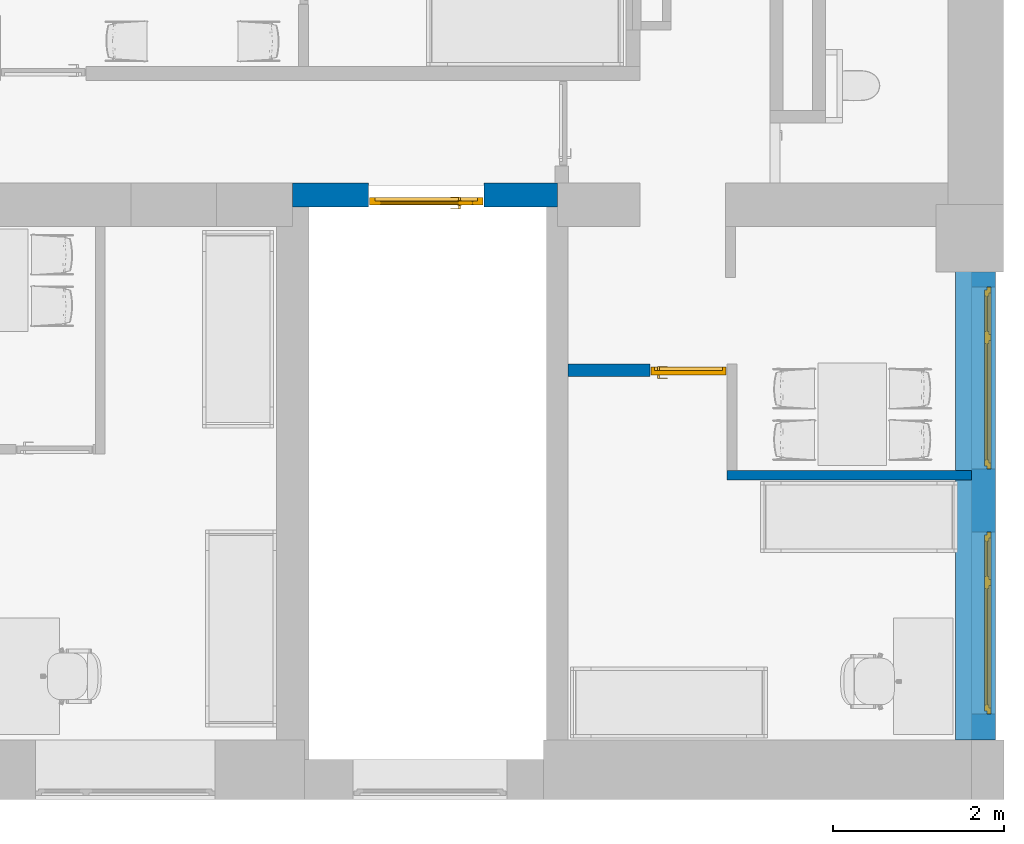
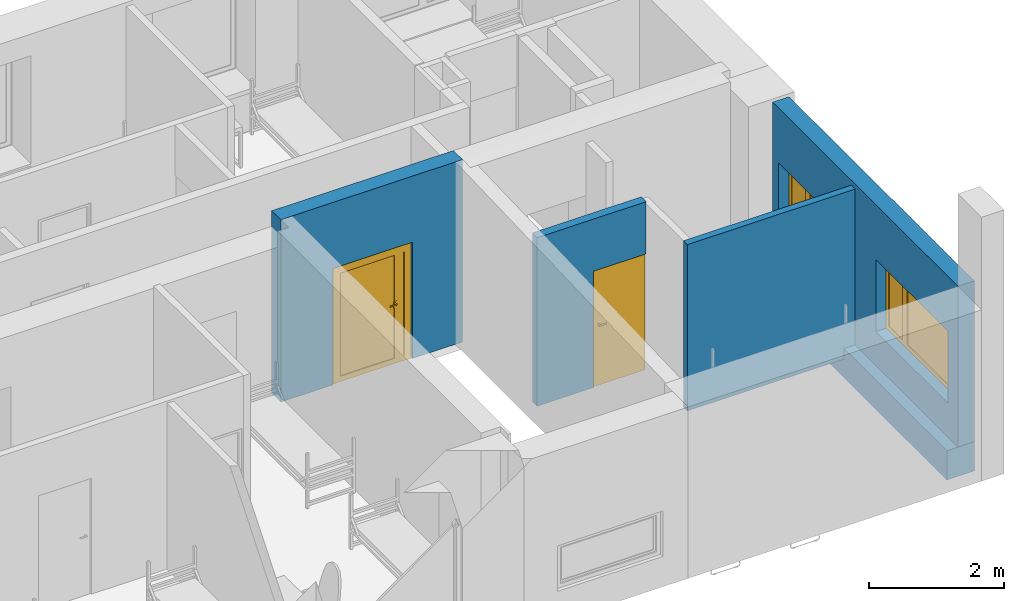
# One storey, part 12 of 46: 5 walls, 2 doors, 2 windows, 4 openings.
"""IFC2X3 building model written with IfcOpenShell, lengths in millimetres."""

import ifcopenshell
import ifcopenshell.guid

model = None  # the IFC model being written
_history = None  # IfcOwnerHistory: only IFC2X3 demands one
_inside = {}  # id of a spatial element -> (the spatial element, [elements in it])
_under = {}  # id of a project, library or spatial element -> (it, [spatial elements below it])
_declared = {}  # id of a project -> (the project, [libraries it declares])
_typed = {}  # id of a type object -> (the type object, [elements of that type])
_made_of = {}  # id of a material, layer set ... -> (it, [elements and type objects made of it])


def new_model(schema):
    """Start an empty IFC model of exactly this schema.

    Asked for "IFC4X3", IfcOpenShell would pick the latest addendum, in which some entities
    have other attributes; the version numbers below select the first issue.
    IFC2X3 requires an IfcOwnerHistory on every rooted entity: one is made here for all.
    """
    global model, _history
    if schema == "IFC4X3":
        model = ifcopenshell.file(schema_version=(4, 3, 0, 0))
    else:
        model = ifcopenshell.file(schema=schema)
    _inside.clear()
    _under.clear()
    _declared.clear()
    _typed.clear()
    _made_of.clear()
    _history = None
    if model.schema == "IFC2X3":
        org = make("IfcOrganization", Name="unknown")
        user = make(
            "IfcPersonAndOrganization",
            ThePerson=make("IfcPerson", FamilyName="unknown"),
            TheOrganization=org,
        )
        app = make(
            "IfcApplication",
            ApplicationDeveloper=org,
            Version="unknown",
            ApplicationFullName="unknown",
            ApplicationIdentifier="unknown",
        )
        _history = make(
            "IfcOwnerHistory",
            OwningUser=user,
            OwningApplication=app,
            ChangeAction="ADDED",
            CreationDate=0,
        )
    return model


def make(cls, **values):
    """One entity of the class cls with the attributes given. An attribute that is None is left unset."""
    return model.create_entity(
        cls, **{name: value for name, value in values.items() if value is not None}
    )


def entity(cls, *values):
    """Any entity or typed value of the class cls, its attributes in the order of the schema. None: left unset."""
    e = model.create_entity(cls)
    for i, value in enumerate(values):
        if value is not None:
            e[i] = value
    return e


def rooted(cls, **values):
    """An entity with a GlobalId (a new one), such as an element, a storey or a relation."""
    return make(cls, GlobalId=ifcopenshell.guid.new(), OwnerHistory=_history, **values)


def si_unit(unit_type, name, prefix=None):
    """IfcSIUnit, for example si_unit("LENGTHUNIT", "METRE", prefix="MILLI")."""
    return make("IfcSIUnit", UnitType=unit_type, Prefix=prefix, Name=name)


def converted_unit(unit_type, name, factor, base, dimensions=None, offset=None):
    """IfcConversionBasedUnit, such as the inch: factor (a typed value) times the base unit."""
    return make(
        "IfcConversionBasedUnit"
        if offset is None
        else "IfcConversionBasedUnitWithOffset",
        ConversionOffset=offset,
        Dimensions=None
        if dimensions is None
        else entity("IfcDimensionalExponents", *dimensions),
        UnitType=unit_type,
        Name=name,
        ConversionFactor=make(
            "IfcMeasureWithUnit", ValueComponent=factor, UnitComponent=base
        ),
    )


def derived_unit(unit_type, elements):
    """IfcDerivedUnit: a product of units, each with its exponent."""
    return make(
        "IfcDerivedUnit",
        Elements=[
            make("IfcDerivedUnitElement", Unit=unit, Exponent=power)
            for unit, power in elements
        ],
        UnitType=unit_type,
    )


def assignment(units):
    """IfcUnitAssignment: the units of a project."""
    return None if units is None else make("IfcUnitAssignment", Units=units)


def point(xyz):
    """IfcCartesianPoint."""
    return None if xyz is None else make("IfcCartesianPoint", Coordinates=xyz)


def direction(xyz):
    """IfcDirection."""
    return None if xyz is None else make("IfcDirection", DirectionRatios=xyz)


def frame(location, z_axis=None, x_axis=None):
    """IfcAxis2Placement3D, a coordinate frame: its origin and axes. An axis left out is left unset."""
    return make(
        "IfcAxis2Placement3D",
        Location=point(location),
        Axis=direction(z_axis),
        RefDirection=direction(x_axis),
    )


def frame_2d(location, x_axis=None):
    """IfcAxis2Placement2D, a coordinate frame in the plane: its origin and x axis."""
    return make(
        "IfcAxis2Placement2D", Location=point(location), RefDirection=direction(x_axis)
    )


def origin():
    """The frame at (0, 0, 0) with its axes left unset."""
    return frame((0.0, 0.0, 0.0))


def place(relative_to, where):
    """IfcLocalPlacement: puts the frame where relative to a parent placement (None: the world)."""
    return make(
        "IfcLocalPlacement", PlacementRelTo=relative_to, RelativePlacement=where
    )


def context(
    kind, dimensions, precision=None, world=None, true_north=None, identifier=None
):
    """IfcGeometricRepresentationContext, for example the 3D "Model" context."""
    return make(
        "IfcGeometricRepresentationContext",
        ContextIdentifier=identifier,
        ContextType=kind,
        CoordinateSpaceDimension=dimensions,
        Precision=precision,
        WorldCoordinateSystem=world,
        TrueNorth=true_north,
    )


def subcontext(parent, identifier, kind, view, scale=None):
    """IfcGeometricRepresentationSubContext, for example "Body" below "Model"."""
    return make(
        "IfcGeometricRepresentationSubContext",
        ContextIdentifier=identifier,
        ContextType=kind,
        ParentContext=parent,
        TargetScale=scale,
        TargetView=view,
    )


def project(units=None, contexts=None):
    """IfcProject with its units and contexts."""
    return rooted(
        "IfcProject",
        Name="project",
        RepresentationContexts=contexts,
        UnitsInContext=assignment(units),
    )


def spatial(cls, under=None, at=None, **own):
    """A site, building, storey or space (cls), placed at a placement, below another one or the project."""
    s = rooted(cls, ObjectPlacement=at, **own)
    if under is not None:
        _under.setdefault(under.id(), (under, []))[1].append(s)
    return s


def polyline(points):
    """IfcPolyline through the points."""
    return make("IfcPolyline", Points=[point(p) for p in points])


def profile(cls, at=None, kind="AREA", **sizes):
    """A parametric profile (cls). Its sizes go by their IFC names, for example OverallWidth=200.0."""
    return make(cls, ProfileType=kind, Position=at, **sizes)


def rectangle(**sizes):
    """IfcRectangleProfileDef."""
    return profile("IfcRectangleProfileDef", **sizes)


def extrude(swept, where, along, depth):
    """IfcExtrudedAreaSolid: the profile swept, set in the frame where, extruded along a direction by depth."""
    return make(
        "IfcExtrudedAreaSolid",
        SweptArea=swept,
        Position=where,
        ExtrudedDirection=direction(along),
        Depth=depth,
    )


def clip(a, b, op="DIFFERENCE"):
    """IfcBooleanClippingResult: the solid a cut by the half space b."""
    return make(
        "IfcBooleanClippingResult", Operator=op, FirstOperand=a, SecondOperand=b
    )


def bounded_halfspace(plane, agree, where, boundary):
    """IfcPolygonalBoundedHalfSpace: a half space limited to a polygon's prism."""
    return make(
        "IfcPolygonalBoundedHalfSpace",
        BaseSurface=make("IfcPlane", Position=plane),
        AgreementFlag=agree,
        Position=where,
        PolygonalBoundary=boundary,
    )


def faces_of(points, faces, orient=None, outer=None):
    """IfcFace entities. A face is a list of loops; a loop is a list of indices into points, from 0.

    orient and outer hold one flag for each loop. By default every Orientation is true, the
    first loop of a face is its IfcFaceOuterBound and the others are IfcFaceBound.
    """
    made = []
    for i, loops in enumerate(faces):
        bounds = []
        for j, loop in enumerate(loops):
            is_outer = j == 0 if outer is None else outer[i][j]
            bounds.append(
                make(
                    "IfcFaceOuterBound" if is_outer else "IfcFaceBound",
                    Bound=make("IfcPolyLoop", Polygon=[points[k] for k in loop]),
                    Orientation=True if orient is None else orient[i][j],
                )
            )
        made.append(make("IfcFace", Bounds=bounds))
    return made


def faceted_brep(points, faces, orient=None, outer=None, voids=None):
    """IfcFacetedBrep: a solid bounded by flat faces; with voids (closed shells), ...WithVoids."""
    shared = [point(p) for p in points]
    hull = make("IfcClosedShell", CfsFaces=faces_of(shared, faces, orient, outer))
    if voids is None:
        return make("IfcFacetedBrep", Outer=hull)
    return make(
        "IfcFacetedBrepWithVoids",
        Outer=hull,
        Voids=[
            make(cls, CfsFaces=faces_of(shared, fs, o, b)) for cls, fs, o, b in voids
        ],
    )


def shape(context_of_items, identifier, shape_type, items):
    """IfcShapeRepresentation: the items that make up one representation, for example the "Body"."""
    return make(
        "IfcShapeRepresentation",
        ContextOfItems=context_of_items,
        RepresentationIdentifier=identifier,
        RepresentationType=shape_type,
        Items=items,
    )


def source(mapping_origin, context_of_items, identifier, shape_type, items):
    """IfcRepresentationMap: a shape defined once, which mapped items show again and again."""
    return make(
        "IfcRepresentationMap",
        MappingOrigin=mapping_origin,
        MappedRepresentation=shape(context_of_items, identifier, shape_type, items),
    )


def transform(
    local_origin,
    x_axis=None,
    y_axis=None,
    z_axis=None,
    scale=None,
    scale2=None,
    scale3=None,
    uniform=True,
):
    """IfcCartesianTransformationOperator3D, or its non-uniform kind. x_axis, y_axis, z_axis: its Axis1, 2, 3."""
    if uniform:
        return make(
            "IfcCartesianTransformationOperator3D",
            Axis1=direction(x_axis),
            Axis2=direction(y_axis),
            LocalOrigin=point(local_origin),
            Scale=scale,
            Axis3=direction(z_axis),
        )
    return make(
        "IfcCartesianTransformationOperator3DnonUniform",
        Axis1=direction(x_axis),
        Axis2=direction(y_axis),
        LocalOrigin=point(local_origin),
        Scale=scale,
        Axis3=direction(z_axis),
        Scale2=scale2,
        Scale3=scale3,
    )


def mapped(mapping_source, mapping_target):
    """IfcMappedItem: shows the shape of a source again, moved by a transform."""
    return make(
        "IfcMappedItem", MappingSource=mapping_source, MappingTarget=mapping_target
    )


def material(Name=None, Category=None):
    """IfcMaterial."""
    return make("IfcMaterial", Name=Name, Category=Category)


def material_list(materials):
    """IfcMaterialList."""
    return make("IfcMaterialList", Materials=materials)


def layer(
    of_material, thickness, ventilated=None, Name=None, Category=None, Priority=None
):
    """IfcMaterialLayer: one layer of a wall or slab, of a material (None: an air gap)."""
    return make(
        "IfcMaterialLayer",
        Material=of_material,
        LayerThickness=thickness,
        IsVentilated=ventilated,
        Name=Name,
        Category=Category,
        Priority=Priority,
    )


def layer_set(layers, Name=None):
    """IfcMaterialLayerSet."""
    return make("IfcMaterialLayerSet", MaterialLayers=layers, LayerSetName=Name)


def layer_usage(for_layer_set, set_direction, sense, offset, extent=None):
    """IfcMaterialLayerSetUsage: how a layer set lies in its element."""
    return make(
        "IfcMaterialLayerSetUsage",
        ForLayerSet=for_layer_set,
        LayerSetDirection=set_direction,
        DirectionSense=sense,
        OffsetFromReferenceLine=offset,
        ReferenceExtent=extent,
    )


def made_of(thing, what):
    """Note that an element or type object is made of a material, layer set ...; save() writes the relation."""
    if what is not None:
        _made_of.setdefault(what.id(), (what, []))[1].append(thing)
    return thing


def type_object(cls, material=None, **own):
    """A type object (cls), such as IfcWallType, which elements share."""
    return made_of(rooted(cls, **own), material)


def type_shapes(of_type, sources):
    """Give a type object the sources (RepresentationMaps) that its elements show as mapped items."""
    of_type.RepresentationMaps = sources


def element(
    cls,
    number,
    at=None,
    inside=None,
    cuts=None,
    type_object=None,
    material=None,
    context=None,
    identifier="Body",
    shape_type=None,
    held_by="IfcProductDefinitionShape",
    body=None,
    shapes=None,
    **own,
):
    """One element of the class cls, such as IfcWall. Its Tag is "e" and its number.

    at: its placement. inside: the storey or other place that contains it. cuts: it is an
    opening in that element (IfcRelVoidsElement). A single representation is given by context,
    identifier, shape_type and body (its items); several are given by shapes. held_by: the class
    of the entity that holds the representations. save() writes the other relations.
    """
    e = rooted(cls, Tag="e%d" % number, ObjectPlacement=at, **own)
    if body is not None:
        shapes = [shape(context, identifier, shape_type, body)]
    if shapes is not None:
        e.Representation = make(held_by, Representations=shapes)
    if inside is not None:
        _inside.setdefault(inside.id(), (inside, []))[1].append(e)
    if cuts is not None:
        rooted(
            "IfcRelVoidsElement", RelatingBuildingElement=cuts, RelatedOpeningElement=e
        )
    if type_object is not None:
        _typed.setdefault(type_object.id(), (type_object, []))[1].append(e)
    return made_of(e, material)


def fill(opening, filler):
    """IfcRelFillsElement: the door or window that sits in an opening."""
    return rooted(
        "IfcRelFillsElement",
        RelatingOpeningElement=opening,
        RelatedBuildingElement=filler,
    )


def aggregate(whole, parts):
    """IfcRelAggregates: a whole, such as a stair, and the parts it consists of."""
    return rooted("IfcRelAggregates", RelatingObject=whole, RelatedObjects=parts)


def save(model, path):
    """Write the relations noted so far, then the file.

    IfcRelAggregates (storeys below a building ...), IfcRelContainedInSpatialStructure (elements
    in a storey), IfcRelDefinesByType, IfcRelAssociatesMaterial and IfcRelDeclares: one each for
    every whole, place, type object, material and project.
    """
    for whole, parts in _under.values():
        aggregate(whole, parts)
    for where, things in _inside.values():
        rooted(
            "IfcRelContainedInSpatialStructure",
            RelatedElements=things,
            RelatingStructure=where,
        )
    for kind, things in _typed.values():
        rooted("IfcRelDefinesByType", RelatedObjects=things, RelatingType=kind)
    for what, things in _made_of.values():
        rooted("IfcRelAssociatesMaterial", RelatedObjects=things, RelatingMaterial=what)
    for by, libraries in _declared.values():
        rooted("IfcRelDeclares", RelatingContext=by, RelatedDefinitions=libraries)
    model.write(path)


model = new_model("IFC2X3")

# Units and contexts
model_context = context("Model", 3, precision=0.01, world=origin(), true_north=direction((6.12303176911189e-17, 1.0)))
body_context = subcontext(model_context, "Body", "Model", "MODEL_VIEW")
ifc_project = project(units=[si_unit("LENGTHUNIT", "METRE", prefix="MILLI"), si_unit("AREAUNIT", "SQUARE_METRE"), si_unit("VOLUMEUNIT", "CUBIC_METRE"), converted_unit("PLANEANGLEUNIT", "DEGREE", entity("IfcRatioMeasure", 0.0174532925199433), si_unit("PLANEANGLEUNIT", "RADIAN"), dimensions=[0, 0, 0, 0, 0, 0, 0]), si_unit("MASSUNIT", "GRAM", prefix="KILO"), derived_unit("MASSDENSITYUNIT", [(si_unit("MASSUNIT", "GRAM", prefix="KILO"), 1), (si_unit("LENGTHUNIT", "METRE"), -3)]), si_unit("TIMEUNIT", "SECOND"), si_unit("FREQUENCYUNIT", "HERTZ"), si_unit("THERMODYNAMICTEMPERATUREUNIT", "DEGREE_CELSIUS"), derived_unit("THERMALTRANSMITTANCEUNIT", [(si_unit("MASSUNIT", "GRAM", prefix="KILO"), 1), (si_unit("THERMODYNAMICTEMPERATUREUNIT", "KELVIN"), -1), (si_unit("TIMEUNIT", "SECOND"), -3)]), derived_unit("VOLUMETRICFLOWRATEUNIT", [(si_unit("LENGTHUNIT", "METRE"), 3), (si_unit("TIMEUNIT", "SECOND"), -1)]), si_unit("ELECTRICCURRENTUNIT", "AMPERE"), si_unit("ELECTRICVOLTAGEUNIT", "VOLT"), si_unit("POWERUNIT", "WATT"), si_unit("FORCEUNIT", "NEWTON", prefix="KILO"), si_unit("ILLUMINANCEUNIT", "LUX"), si_unit("LUMINOUSFLUXUNIT", "LUMEN"), si_unit("LUMINOUSINTENSITYUNIT", "CANDELA"), derived_unit("USERDEFINED", [(si_unit("MASSUNIT", "GRAM", prefix="KILO"), -1), (si_unit("LENGTHUNIT", "METRE"), -2), (si_unit("TIMEUNIT", "SECOND"), 3), (si_unit("LUMINOUSFLUXUNIT", "LUMEN"), 1)]), derived_unit("LINEARVELOCITYUNIT", [(si_unit("LENGTHUNIT", "METRE"), 1), (si_unit("TIMEUNIT", "SECOND"), -1)]), si_unit("PRESSUREUNIT", "PASCAL"), derived_unit("USERDEFINED", [(si_unit("LENGTHUNIT", "METRE"), -2), (si_unit("MASSUNIT", "GRAM", prefix="KILO"), 1), (si_unit("TIMEUNIT", "SECOND"), -2)]), derived_unit("LINEARFORCEUNIT", [(si_unit("MASSUNIT", "GRAM", prefix="KILO"), 1), (si_unit("LENGTHUNIT", "METRE"), 1), (si_unit("TIMEUNIT", "SECOND"), -2), (si_unit("LENGTHUNIT", "METRE"), -1)]), derived_unit("PLANARFORCEUNIT", [(si_unit("MASSUNIT", "GRAM", prefix="KILO"), 1), (si_unit("LENGTHUNIT", "METRE"), 1), (si_unit("TIMEUNIT", "SECOND"), -2), (si_unit("LENGTHUNIT", "METRE"), -2)])], contexts=[model_context])

# Site, building, storey
site_placement = place(None, origin())
site = spatial("IfcSite", under=ifc_project, at=site_placement, Name="Default", CompositionType="ELEMENT")
building_placement = place(site_placement, origin())
building = spatial("IfcBuilding", under=site, at=building_placement, Name="SMA ARH", CompositionType="ELEMENT")
storey_placement = place(building_placement, frame((0.0, 0.0, 9910.0)))
storey = spatial("IfcBuildingStorey", under=building, at=storey_placement, Name="4 Korrus", CompositionType="ELEMENT", Elevation=9909.9999999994)

# Wall, opening, door
ifc_material_1 = material(Name="_ol.olev sein")
ifc_layer_1 = layer(ifc_material_1, 280.0)
ifc_layer_set_1 = layer_set([ifc_layer_1], Name="Basic Wall:Generic - 280mm")
ifc_layer_usage_1 = layer_usage(ifc_layer_set_1, "AXIS2", "POSITIVE", -140.0)
wall_type_1 = type_object("IfcWallType", Name="Basic Wall:Generic - 280mm", PredefinedType="STANDARD", material=ifc_layer_set_1)
wall_1_placement = place(storey_placement, frame((30450.0, 6380.0, 0.0)))
wall_1 = element("IfcWallStandardCase", 1, at=wall_1_placement, inside=storey, type_object=wall_type_1, material=ifc_layer_usage_1, Name="Basic Wall:Generic - 280mm", ObjectType="Basic Wall:Generic - 280mm", context=body_context, shape_type="Clipping", body=[
    clip(extrude(rectangle(XDim=280.0, YDim=3100.00000000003, at=frame_2d((1740.00000000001, -1.10844666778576e-12), x_axis=(0.0, 1.0))), origin(), (0.0, 0.0, 1.0), 3291.82632873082), bounded_halfspace(frame((0.0, -140.0, 3291.82632873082), z_axis=(0.0, 0.0348994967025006, 0.999390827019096), x_axis=(-1.0, 0.0, 0.0)), False, frame((0.0, -140.0, 3291.82632873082), z_axis=(0.0, 0.0348994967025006, 0.999390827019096), x_axis=(-1.0, 0.0, 0.0)), polyline([(0.0, 0.0), (-3165.0, 0.0), (-3290.0, 0.0), (-3290.0, -280.17067240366), (0.0, -280.17067240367), (0.0, -240.146290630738), (0.0, 0.0)]))),
])
opening_1_placement = place(wall_1_placement, frame((2430.0, 140.0, 0.0)))
opening_1 = element("IfcOpeningElement", 2, at=opening_1_placement, cuts=wall_1, Name="SMA_D02, 2-poolne:SU-AL-03 - 1350x2100:1", ObjectType="Opening", context=body_context, shape_type="SweptSolid", body=[
    extrude(rectangle(XDim=2099.99999999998, YDim=1350.0, at=frame_2d((1049.99999999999, 675.0), x_axis=(1.0, 0.0))), frame((0.0, 0.0, 0.0), z_axis=(0.0, -1.0, 0.0), x_axis=(0.0, 0.0, 1.0)), (0.0, 0.0, 1.0), 280.0),
])
ifc_material_2 = material(Name="EST. Metall. Plekk. Värvitud. RAL7023 (Concrete grey)")
ifc_material_3 = material(Name="EST. Klaas. 3x. Default")
ifc_material_list_1 = material_list([ifc_material_2, ifc_material_3])
ifc_material_4 = material(Name="<Unnamed>")
ifc_material_list_2 = material_list([ifc_material_4, ifc_material_4, ifc_material_2, ifc_material_3, ifc_material_4, ifc_material_2, ifc_material_2])
door_style_1 = type_object("IfcDoorStyle", Name="SMA_D02, 2-poolne:SU-AL-03 - 1350x2100", ConstructionType="NOTDEFINED", OperationType="SINGLE_SWING_RIGHT", ParameterTakesPrecedence=False, Sizeable=False, material=ifc_material_list_2)
shared_shape_1 = source(origin(), body_context, "Body", "Brep", [
    faceted_brep([(297.499999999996, 170.0, 1100.0), (297.499999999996, 208.0, 1100.0), (272.499999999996, 208.0, 1100.0), (272.499999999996, 165.0, 1100.0), (392.499999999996, 165.0, 1100.0), (392.499999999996, 170.0, 1100.0), (297.499999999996, 170.0, 1075.0), (392.499999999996, 170.0, 1075.0), (392.499999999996, 165.0, 1075.0), (272.499999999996, 165.0, 1075.0), (272.499999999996, 208.0, 1075.0), (297.499999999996, 208.0, 1075.0)], [[[0, 1, 2, 3, 4, 5]], [[6, 7, 8, 9, 10, 11]], [[1, 0, 6, 11]], [[2, 1, 11, 10]], [[3, 2, 10, 9]], [[4, 3, 9, 8]], [[5, 4, 8, 7]], [[0, 5, 7, 6]]]),
    faceted_brep([(310.0, 208.0, 1125.0), (310.0, 210.0, 1125.0), (260.0, 210.0, 1125.0), (260.0, 208.0, 1125.0), (310.0, 208.0, 1005.0), (260.0, 208.0, 1005.0), (260.0, 210.0, 1005.0), (310.0, 210.0, 1005.0)], [[[0, 1, 2, 3]], [[4, 5, 6, 7]], [[1, 0, 4, 7]], [[2, 1, 7, 6]], [[3, 2, 6, 5]], [[0, 3, 5, 4]]]),
    faceted_brep([(297.499999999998, 300.0, 1100.0), (392.499999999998, 300.0, 1100.0), (392.499999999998, 305.0, 1100.0), (272.499999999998, 305.0, 1100.0), (272.499999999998, 262.0, 1100.0), (297.499999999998, 262.0, 1100.0), (297.499999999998, 300.0, 1075.0), (297.499999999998, 262.0, 1075.0), (272.499999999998, 262.0, 1075.0), (272.499999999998, 305.0, 1075.0), (392.499999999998, 305.0, 1075.0), (392.499999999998, 300.0, 1075.0)], [[[0, 1, 2, 3, 4, 5]], [[6, 7, 8, 9, 10, 11]], [[5, 7, 6, 0]], [[4, 8, 7, 5]], [[3, 9, 8, 4]], [[2, 10, 9, 3]], [[1, 11, 10, 2]], [[0, 6, 11, 1]]]),
    faceted_brep([(310.0, 262.0, 1125.0), (260.0, 262.0, 1125.0), (260.0, 260.0, 1125.0), (310.0, 260.0, 1125.0), (310.0, 262.0, 1005.0), (310.0, 260.0, 1005.0), (260.0, 260.0, 1005.0), (260.0, 262.0, 1005.0)], [[[0, 1, 2, 3]], [[4, 5, 6, 7]], [[3, 5, 4, 0]], [[2, 6, 5, 3]], [[1, 7, 6, 2]], [[0, 4, 7, 1]]]),
    faceted_brep([(1274.5, 170.0, 30.0), (1274.5, 170.0, 0.0), (1274.5, 210.0, 0.0), (1274.5, 210.0, 20.0), (1274.5, 210.0, 30.0), (75.4999999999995, 170.0, 30.0), (75.4999999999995, 210.0, 30.0), (75.4999999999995, 210.0, 20.0), (75.4999999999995, 210.0, 0.0), (75.4999999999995, 170.0, 0.0), (65.4999999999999, 210.0, 0.0), (65.4999999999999, 260.0, 0.0), (1284.5, 260.0, 0.0), (1284.5, 210.0, 0.0), (1284.5, 260.0, 20.0), (1284.5, 210.0, 20.0), (65.4999999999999, 260.0, 20.0), (65.4999999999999, 210.0, 20.0)], [[[0, 1, 2, 3, 4]], [[5, 6, 7, 8, 9]], [[1, 0, 5, 9]], [[2, 1, 9, 8, 10, 11, 12, 13]], [[6, 4, 3, 7]], [[0, 4, 6, 5]], [[14, 15, 13, 12]], [[16, 11, 10, 17]], [[15, 14, 16, 17, 7, 3]], [[13, 15, 3, 2]], [[14, 12, 11, 16]], [[17, 10, 8, 7]]]),
    faceted_brep([(1340.0, 170.0, 0.0), (1274.5, 170.0, 0.0), (1274.5, 210.0, 0.0), (1284.5, 210.0, 0.0), (1284.5, 260.0, 0.0), (1340.0, 260.0, 0.0), (1340.0, 170.0, 2090.0), (10.0, 170.0, 2090.0), (10.0, 170.0, 0.0), (75.4999999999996, 170.0, 0.0), (75.4999999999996, 170.0, 2024.49999999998), (1274.5, 170.0, 2024.49999999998), (1274.5, 210.0, 2024.49999999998), (75.5000000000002, 210.0, 2024.49999999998), (75.5000000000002, 210.0, 0.0), (65.5000000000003, 210.0, 0.0), (65.5000000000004, 210.0, 2034.49999999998), (1284.5, 210.0, 2034.49999999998), (1284.5, 260.0, 2034.49999999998), (65.5, 260.0, 2034.49999999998), (65.5, 260.0, 0.0), (10.0, 260.0, 0.0), (10.0, 260.0, 2090.0), (1340.0, 260.0, 2090.0)], [[[0, 1, 2, 3, 4, 5]], [[1, 0, 6, 7, 8, 9, 10, 11]], [[2, 1, 11, 12]], [[3, 2, 12, 13, 14, 15, 16, 17]], [[4, 3, 17, 18]], [[5, 4, 18, 19, 20, 21, 22, 23]], [[0, 5, 23, 6]], [[8, 7, 22, 21]], [[9, 8, 21, 20, 15, 14]], [[10, 9, 14, 13]], [[16, 15, 20, 19]], [[11, 10, 13, 12]], [[17, 16, 19, 18]], [[7, 6, 23, 22]]]),
    faceted_brep([(140.500000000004, 225.0, 95.0), (140.500000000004, 225.0, 1955.0), (125.0, 225.0, 1955.0), (125.0, 225.0, 95.0), (140.500000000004, 245.0, 95.0), (125.0, 245.0, 95.0), (125.0, 245.0, 1955.0), (140.500000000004, 245.0, 1955.0)], [[[0, 1, 2, 3]], [[4, 5, 6, 7]], [[0, 3, 5, 4]], [[3, 2, 6, 5]], [[2, 1, 7, 6]], [[1, 0, 4, 7]]]),
    faceted_brep([(295.0, 225.0, 95.0), (1209.5, 225.0, 95.0), (1209.5, 225.0, 1955.0), (295.0, 225.0, 1955.0), (295.0, 245.0, 95.0), (295.0, 245.0, 1955.0), (1209.5, 245.0, 1955.0), (1209.5, 245.0, 95.0)], [[[0, 1, 2, 3]], [[4, 5, 6, 7]], [[1, 0, 4, 7]], [[2, 1, 7, 6]], [[3, 2, 6, 5]], [[0, 3, 5, 4]]]),
    faceted_brep([(210.0, 210.0, 2034.49999999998), (65.4999999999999, 210.0, 2034.49999999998), (65.4999999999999, 210.0, 20.0), (210.0, 210.0, 20.0), (140.500000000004, 210.0, 1955.0), (140.500000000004, 210.0, 95.0), (125.0, 210.0, 95.0), (125.0, 210.0, 1955.0), (210.0, 260.0, 2034.49999999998), (210.0, 260.0, 20.0), (65.4999999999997, 260.0, 20.0), (65.4999999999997, 260.0, 2034.49999999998), (140.500000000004, 260.0, 95.0), (140.500000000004, 260.0, 1955.0), (125.0, 260.0, 1955.0), (125.0, 260.0, 95.0)], [[[0, 1, 2, 3], [4, 5, 6, 7]], [[8, 9, 10, 11], [12, 13, 14, 15]], [[1, 0, 8, 11]], [[2, 1, 11, 10]], [[3, 2, 10, 9]], [[0, 3, 9, 8]], [[12, 5, 4, 13]], [[5, 12, 15, 6]], [[6, 15, 14, 7]], [[7, 14, 13, 4]]]),
    faceted_brep([(210.0, 210.0, 2034.49999999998), (210.0, 210.0, 20.0), (1284.5, 210.0, 20.0), (1284.5, 210.0, 2034.49999999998), (295.0, 210.0, 95.0), (295.0, 210.0, 1955.0), (1209.5, 210.0, 1955.0), (1209.5, 210.0, 95.0), (210.0, 260.0, 2034.49999999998), (1284.5, 260.0, 2034.49999999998), (1284.5, 260.0, 20.0), (210.0, 260.0, 20.0), (295.0, 260.0, 1955.0), (295.0, 260.0, 95.0), (1209.5, 260.0, 95.0), (1209.5, 260.0, 1955.0)], [[[0, 1, 2, 3], [4, 5, 6, 7]], [[8, 9, 10, 11], [12, 13, 14, 15]], [[1, 0, 8, 11]], [[2, 1, 11, 10]], [[3, 2, 10, 9]], [[0, 3, 9, 8]], [[12, 5, 4, 13]], [[13, 4, 7, 14]], [[14, 7, 6, 15]], [[5, 12, 15, 6]]]),
])
type_shapes(door_style_1, [shared_shape_1])
door_1_placement = place(opening_1_placement, frame((0.0, 0.0, 0.0), z_axis=(0.0, 0.0, 1.0), x_axis=(-1.0, 0.0, 0.0)))
door_1 = element("IfcDoor", 3, at=door_1_placement, inside=storey, type_object=door_style_1, material=ifc_material_list_1, Name="SMA_D02, 2-poolne:SU-AL-03 - 1350x2100", ObjectType="SMA_D02, 2-poolne:SU-AL-03 - 1350x2100", OverallHeight=2099.99999999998, OverallWidth=1350.0, context=body_context, shape_type="MappedRepresentation", body=[
    mapped(shared_shape_1, transform((0.0, 0.0, 0.0), scale=1.0)),
])
fill(opening_1, door_1)

# Wall, openings, windows
ifc_layer_usage_2 = layer_usage(ifc_layer_set_1, "AXIS2", "NEGATIVE", 140.0)
wall_2_placement = place(storey_placement, frame((38729.9009991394, 5480.0, 190.0), z_axis=(0.0, 0.0, 1.0), x_axis=(0.0, -1.0, 0.0)))
wall_2 = element("IfcWallStandardCase", 4, at=wall_2_placement, inside=storey, type_object=wall_type_1, material=ifc_layer_usage_2, Name="Basic Wall:Generic - 280mm", ObjectType="Basic Wall:Generic - 280mm", context=body_context, shape_type="SweptSolid", body=[
    extrude(rectangle(XDim=5480.00000000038, YDim=279.999999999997, at=frame_2d((2740.00000000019, 0.0), x_axis=(-1.0, 0.0))), origin(), (0.0, 0.0, 1.0), 2900.00000000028),
])
opening_2_placement = place(wall_2_placement, frame((3050.0, -140.0, 610.0)))
opening_2 = element("IfcOpeningElement", 5, at=opening_2_placement, cuts=wall_2, Name="SMA_W2, 2-jaotus:A-00 - 19800x1900:1", ObjectType="Opening", context=body_context, shape_type="SweptSolid", body=[
    extrude(rectangle(XDim=1300.0, YDim=2130.0, at=frame_2d((650.0, 1065.0), x_axis=(1.0, 0.0))), frame((0.0, 0.0, 0.0), z_axis=(0.0, 1.0, 0.0), x_axis=(0.0, 0.0, 1.0)), (0.0, 0.0, 1.0), 280.0),
])
opening_3_placement = place(wall_2_placement, frame((180.0, -140.0, 610.0)))
opening_3 = element("IfcOpeningElement", 6, at=opening_3_placement, cuts=wall_2, Name="SMA_W2, 2-jaotus:A-00 - 19800x1900:1", ObjectType="Opening", context=body_context, shape_type="SweptSolid", body=[
    extrude(rectangle(XDim=1300.0, YDim=2130.0, at=frame_2d((650.0, 1065.0), x_axis=(1.0, 0.0))), frame((0.0, 0.0, 0.0), z_axis=(0.0, 1.0, 0.0), x_axis=(0.0, 0.0, 1.0)), (0.0, 0.0, 1.0), 280.0),
])
ifc_material_5 = material(Name="Glass")
ifc_material_6 = material(Name="Hall")
ifc_material_list_3 = material_list([ifc_material_5, ifc_material_6])
ifc_material_list_4 = material_list([ifc_material_6, ifc_material_5, ifc_material_4, ifc_material_6, ifc_material_4])
window_style = type_object("IfcWindowStyle", Name="SMA_W2, 2-jaotus:A-00 - 19800x1900", ConstructionType="NOTDEFINED", OperationType="NOTDEFINED", ParameterTakesPrecedence=False, Sizeable=False, material=ifc_material_list_4)
shared_shape_2 = source(origin(), body_context, "Body", "Brep", [
    faceted_brep([(2025.0, 170.0, 1195.0), (660.0, 170.0, 1195.0), (660.0, 170.0, 105.0), (2025.0, 170.0, 105.0), (2025.0, 190.0, 105.0), (2025.0, 190.0, 1195.0), (660.0, 190.0, 105.0), (660.0, 190.0, 1195.0)], [[[0, 1, 2, 3]], [[3, 4, 5, 0]], [[2, 6, 4, 3]], [[1, 7, 6, 2]], [[5, 4, 6, 7]], [[0, 5, 7, 1]]]),
    faceted_brep([(520.0, 170.0, 105.0), (520.0, 170.0, 1195.0), (105.0, 170.0, 1195.0), (105.0, 170.0, 105.0), (105.0, 190.0, 105.0), (520.0, 190.0, 105.0), (105.0, 190.0, 1195.0), (520.0, 190.0, 1195.0)], [[[0, 1, 2, 3]], [[3, 4, 5, 0]], [[2, 6, 4, 3]], [[0, 5, 7, 1]], [[5, 4, 6, 7]], [[1, 7, 6, 2]]]),
    faceted_brep([(2095.0, 155.0, 35.0), (2095.0, 155.0, 1265.0), (590.0, 155.0, 1265.0), (590.0, 155.0, 35.0), (660.0, 155.0, 1195.0), (2025.0, 155.0, 1195.0), (2025.0, 155.0, 105.0), (660.0, 155.0, 105.0), (590.0, 205.0, 35.0), (2095.0, 205.0, 35.0), (590.0, 205.0, 1265.0), (2095.0, 205.0, 1265.0), (660.0, 205.0, 105.0), (660.0, 205.0, 1195.0), (2025.0, 205.0, 105.0), (2025.0, 205.0, 1195.0)], [[[0, 1, 2, 3], [4, 5, 6, 7]], [[3, 8, 9, 0]], [[2, 10, 8, 3]], [[0, 9, 11, 1]], [[7, 12, 13, 4]], [[6, 14, 12, 7]], [[5, 15, 14, 6]], [[9, 8, 10, 11], [13, 12, 14, 15]], [[1, 11, 10, 2]], [[4, 13, 15, 5]]]),
    faceted_brep([(590.0, 155.0, 35.0), (590.0, 155.0, 1265.0), (35.0, 155.0, 1265.0), (35.0, 155.0, 35.0), (105.0, 155.0, 1195.0), (520.0, 155.0, 1195.0), (520.0, 155.0, 105.0), (105.0, 155.0, 105.0), (35.0, 205.0, 35.0), (590.0, 205.0, 35.0), (35.0, 205.0, 1265.0), (590.0, 205.0, 1265.0), (105.0, 205.0, 105.0), (105.0, 205.0, 1195.0), (520.0, 205.0, 105.0), (520.0, 205.0, 1195.0)], [[[0, 1, 2, 3], [4, 5, 6, 7]], [[3, 8, 9, 0]], [[2, 10, 8, 3]], [[0, 9, 11, 1]], [[7, 12, 13, 4]], [[6, 14, 12, 7]], [[5, 15, 14, 6]], [[9, 8, 10, 11], [13, 12, 14, 15]], [[1, 11, 10, 2]], [[4, 13, 15, 5]]]),
    faceted_brep([(35.0, 180.0, 35.0), (35.0, 180.0, 1265.0), (590.0, 180.0, 1265.0), (590.0, 180.0, 35.0), (2060.0, 180.0, 1230.0), (2060.0, 180.0, 70.0), (625.0, 180.0, 70.0), (625.0, 180.0, 1230.0), (2130.0, 180.0, 0.0), (2130.0, 180.0, 1300.0), (0.0, 180.0, 1300.0), (0.0, 180.0, 0.0), (0.0, 230.0, 0.0), (2130.0, 230.0, 0.0), (0.0, 230.0, 1300.0), (2130.0, 230.0, 1300.0), (625.0, 230.0, 70.0), (625.0, 230.0, 1230.0), (2060.0, 230.0, 70.0), (2060.0, 230.0, 1230.0), (35.0, 205.0, 35.0), (590.0, 205.0, 35.0), (590.0, 205.0, 1265.0), (35.0, 205.0, 1265.0), (555.0, 230.0, 1230.0), (70.0, 230.0, 1230.0), (70.0, 230.0, 70.0), (555.0, 230.0, 70.0), (555.0, 205.0, 70.0), (555.0, 205.0, 1230.0), (70.0, 205.0, 70.0), (70.0, 205.0, 1230.0)], [[[0, 1, 2, 3], [4, 5, 6, 7], [8, 9, 10, 11]], [[11, 12, 13, 8]], [[10, 14, 12, 11]], [[8, 13, 15, 9]], [[6, 16, 17, 7]], [[5, 18, 16, 6]], [[4, 19, 18, 5]], [[20, 0, 3, 21]], [[21, 3, 2, 22]], [[23, 1, 0, 20]], [[13, 12, 14, 15], [24, 25, 26, 27], [19, 17, 16, 18]], [[27, 28, 29, 24]], [[26, 30, 28, 27]], [[25, 31, 30, 26]], [[21, 22, 23, 20], [29, 28, 30, 31]], [[9, 15, 14, 10]], [[24, 29, 31, 25]], [[7, 17, 19, 4]], [[22, 2, 1, 23]]], outer=[[False, False, True], [True], [True], [True], [True], [True], [True], [True], [True], [True], [True, False, False], [True], [True], [True], [True, False], [True], [True], [True], [True]]),
])
type_shapes(window_style, [shared_shape_2])
window_1_placement = place(opening_2_placement, origin())
window_1 = element("IfcWindow", 7, at=window_1_placement, inside=storey, type_object=window_style, material=ifc_material_list_3, Name="SMA_W2, 2-jaotus:A-00 - 19800x1900", ObjectType="SMA_W2, 2-jaotus:A-00 - 19800x1900", OverallHeight=1300.0, OverallWidth=2130.0, context=body_context, shape_type="MappedRepresentation", body=[
    mapped(shared_shape_2, transform((0.0, 0.0, 0.0), scale=1.0)),
])
fill(opening_2, window_1)
ifc_material_list_5 = material_list([ifc_material_5, ifc_material_6])
window_2_placement = place(opening_3_placement, origin())
window_2 = element("IfcWindow", 8, at=window_2_placement, inside=storey, type_object=window_style, material=ifc_material_list_5, Name="SMA_W2, 2-jaotus:A-00 - 19800x1900", ObjectType="SMA_W2, 2-jaotus:A-00 - 19800x1900", OverallHeight=1300.0, OverallWidth=2130.0, context=body_context, shape_type="MappedRepresentation", body=[
    mapped(shared_shape_2, transform((0.0, 0.0, 0.0), scale=1.0)),
])
fill(opening_3, window_2)

# Walls
ifc_layer_2 = layer(ifc_material_1, 470.0)
ifc_layer_set_2 = layer_set([ifc_layer_2], Name="Basic Wall:Generic - 470mm")
ifc_layer_usage_3 = layer_usage(ifc_layer_set_2, "AXIS2", "NEGATIVE", 235.0)
wall_type_2 = type_object("IfcWallType", Name="Basic Wall:Generic - 470mm", PredefinedType="STANDARD", material=ifc_layer_set_2)
wall_3_placement = place(storey_placement, frame((38634.9009991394, 5615.0, -340.0), z_axis=(0.0, 0.0, 1.0), x_axis=(0.0, -1.0, 0.0)))
element("IfcWallStandardCase", 9, at=wall_3_placement, inside=storey, type_object=wall_type_2, material=ifc_layer_usage_3, Name="Basic Wall:Generic - 470mm", ObjectType="Basic Wall:Generic - 470mm", context=body_context, shape_type="SweptSolid", body=[
    extrude(rectangle(XDim=5615.00000000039, YDim=469.999999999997, at=frame_2d((2807.5000000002, 2.41584530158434e-13), x_axis=(-1.0, 0.0))), origin(), (0.0, 0.0, 1.0), 529.999999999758),
])
ifc_material_7 = material(Name="EST. Ehitusplaat. Kipsplaat")
ifc_layer_3 = layer(ifc_material_7, 12.5)
ifc_layer_4 = layer(ifc_material_7, 12.5)
ifc_material_8 = material(Name="EST. Soojustus. Mineraalvill. Default")
ifc_layer_5 = layer(ifc_material_8, 66.0)
ifc_layer_6 = layer(ifc_material_7, 12.5)
ifc_layer_7 = layer(ifc_material_7, 12.5)
ifc_layer_set_3 = layer_set([ifc_layer_3, ifc_layer_4, ifc_layer_5, ifc_layer_6, ifc_layer_7], Name="Basic Wall:SS-05_Kips, 66mm metallkarkass")
ifc_layer_usage_4 = layer_usage(ifc_layer_set_3, "AXIS2", "NEGATIVE", 58.0)
wall_type_3 = type_object("IfcWallType", Name="Basic Wall:SS-05_Kips, 66mm metallkarkass", PredefinedType="STANDARD", material=ifc_layer_set_3)
wall_4_placement = place(storey_placement, frame((35725.5000000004, 3097.50000000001, 0.0)))
element("IfcWallStandardCase", 10, at=wall_4_placement, inside=storey, type_object=wall_type_3, material=ifc_layer_usage_4, Name="Basic Wall:SS-05_Kips, 66mm metallkarkass", ObjectType="Basic Wall:SS-05_Kips, 66mm metallkarkass", context=body_context, shape_type="Clipping", body=[
    clip(extrude(rectangle(XDim=2864.40099913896, YDim=116.0, at=frame_2d((1432.20049956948, -2.0961010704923e-13), x_axis=(-1.0, 0.0))), origin(), (0.0, 0.0, 1.0), 3001.0500000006), bounded_halfspace(frame((0.0, -58.0, 3001.0500000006), z_axis=(0.0, 0.0, -1.0), x_axis=(0.0, 1.0, 0.0)), True, frame((0.0, -58.0, 3001.0500000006)), polyline([(0.0, 0.0), (2694.40099913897, 0.0), (2694.40099913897, 116.0), (116.0, 116.0), (0.0, 116.0), (0.0, 0.0)]))),
])

# Wall, opening, door
ifc_layer_8 = layer(ifc_material_7, 12.5)
ifc_layer_9 = layer(ifc_material_7, 12.5)
ifc_material_9 = material(Name="EST. Õhkvahe. Roov. Kipsplaadi alusroov. Vertikaalne")
ifc_layer_10 = layer(ifc_material_9, 95.0)
ifc_layer_11 = layer(ifc_material_7, 12.5)
ifc_layer_12 = layer(ifc_material_7, 12.5)
ifc_layer_set_4 = layer_set([ifc_layer_8, ifc_layer_9, ifc_layer_10, ifc_layer_11, ifc_layer_12], Name="Basic Wall:SS-04_Kips, 95mm metallkarkass")
ifc_layer_usage_5 = layer_usage(ifc_layer_set_4, "AXIS2", "NEGATIVE", 72.5)
wall_type_4 = type_object("IfcWallType", Name="Basic Wall:SS-04_Kips, 95mm metallkarkass", PredefinedType="STANDARD", material=ifc_layer_set_4)
wall_5_placement = place(storey_placement, frame((35725.5000000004, 4326.0, 0.0), z_axis=(0.0, 0.0, 1.0), x_axis=(-1.0, 0.0, 0.0)))
wall_5 = element("IfcWallStandardCase", 11, at=wall_5_placement, inside=storey, type_object=wall_type_4, material=ifc_layer_usage_5, Name="Basic Wall:SS-04_Kips, 95mm metallkarkass", ObjectType="Basic Wall:SS-04_Kips, 95mm metallkarkass", context=body_context, shape_type="SweptSolid", body=[
    extrude(rectangle(XDim=1860.50000000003, YDim=145.0, at=frame_2d((930.250000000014, -1.56319401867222e-13), x_axis=(-1.0, 0.0))), origin(), (0.0, 0.0, 1.0), 3041.0500000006),
])
opening_4_placement = place(wall_5_placement, frame((0.0, -72.499999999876, 0.0)))
opening_4 = element("IfcOpeningElement", 12, at=opening_4_placement, cuts=wall_5, Name="SMA_D01, 1-poolne:SU-P-05 - 900x2100 TUBA:1", ObjectType="Opening", context=body_context, shape_type="SweptSolid", body=[
    extrude(rectangle(XDim=2099.99999999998, YDim=900.0, at=frame_2d((1049.99999999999, 450.000000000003), x_axis=(1.0, 0.0))), frame((0.0, 0.0, 0.0), z_axis=(0.0, 1.0, 0.0), x_axis=(0.0, 0.0, 1.0)), (0.0, 0.0, 1.0), 145.0),
])
ifc_material_10 = material(Name="EST. Metall. Alumiinium. Värvitud. RAL7023 (Concrete grey)")
ifc_material_list_6 = material_list([ifc_material_4, ifc_material_3, ifc_material_10, ifc_material_10, ifc_material_4, ifc_material_4, ifc_material_10])
door_style_2 = type_object("IfcDoorStyle", Name="SMA_D01, 1-poolne:SU-P-05 - 900x2100 TUBA", ConstructionType="NOTDEFINED", OperationType="SINGLE_SWING_LEFT", ParameterTakesPrecedence=False, Sizeable=False, material=ifc_material_list_6)
shared_shape_3 = source(origin(), body_context, "Body", "Brep", [
    faceted_brep([(790.0, 35.0, 1112.5), (695.0, 35.0, 1112.5), (695.0, 30.0, 1112.5), (815.0, 30.0, 1112.5), (815.0, 73.0, 1112.5), (790.0, 73.0, 1112.5), (790.0, 35.0, 1087.5), (790.0, 73.0, 1087.5), (815.0, 73.0, 1087.5), (815.0, 30.0, 1087.5), (695.0, 30.0, 1087.5), (695.0, 35.0, 1087.5)], [[[0, 1, 2, 3, 4, 5]], [[6, 7, 8, 9, 10, 11]], [[5, 7, 6, 0]], [[4, 8, 7, 5]], [[3, 9, 8, 4]], [[2, 10, 9, 3]], [[1, 11, 10, 2]], [[0, 6, 11, 1]]]),
    faceted_brep([(777.500000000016, 73.0, 1137.5), (827.500000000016, 73.0, 1137.5), (827.500000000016, 75.0, 1137.5), (777.500000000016, 75.0, 1137.5), (777.500000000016, 73.0, 1017.5), (777.500000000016, 75.0, 1017.5), (827.500000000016, 75.0, 1017.5), (827.500000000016, 73.0, 1017.5)], [[[0, 1, 2, 3]], [[4, 5, 6, 7]], [[3, 5, 4, 0]], [[2, 6, 5, 3]], [[1, 7, 6, 2]], [[0, 4, 7, 1]]]),
    faceted_brep([(790.0, 165.0, 1112.5), (790.0, 127.0, 1112.5), (815.0, 127.0, 1112.5), (815.0, 170.0, 1112.5), (695.0, 170.0, 1112.5), (695.0, 165.0, 1112.5), (790.0, 165.0, 1087.5), (695.0, 165.0, 1087.5), (695.0, 170.0, 1087.5), (815.0, 170.0, 1087.5), (815.0, 127.0, 1087.5), (790.0, 127.0, 1087.5)], [[[0, 1, 2, 3, 4, 5]], [[6, 7, 8, 9, 10, 11]], [[1, 0, 6, 11]], [[2, 1, 11, 10]], [[3, 2, 10, 9]], [[4, 3, 9, 8]], [[5, 4, 8, 7]], [[0, 5, 7, 6]]]),
    faceted_brep([(777.500000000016, 127.0, 1137.5), (777.500000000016, 125.0, 1137.5), (827.500000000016, 125.0, 1137.5), (827.500000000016, 127.0, 1137.5), (777.500000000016, 127.0, 1017.5), (827.500000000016, 127.0, 1017.5), (827.500000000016, 125.0, 1017.5), (777.500000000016, 125.0, 1017.5)], [[[0, 1, 2, 3]], [[4, 5, 6, 7]], [[1, 0, 4, 7]], [[2, 1, 7, 6]], [[3, 2, 6, 5]], [[0, 3, 5, 4]]]),
    faceted_brep([(50.0, 35.0, 30.0), (50.0, 75.0, 30.0), (50.0, 75.0, 20.0), (50.0, 75.0, 0.0), (50.0, 35.0, 0.0), (850.0, 35.0, 30.0), (850.0, 35.0, 0.0), (850.0, 75.0, 0.0), (850.0, 75.0, 20.0), (850.0, 75.0, 30.0), (35.0, 75.0, 0.0), (35.0, 125.0, 0.0), (865.0, 125.0, 0.0), (865.0, 75.0, 0.0), (35.0, 125.0, 20.0), (35.0, 75.0, 20.0), (865.0, 125.0, 20.0), (865.0, 75.0, 20.0)], [[[0, 1, 2, 3, 4]], [[5, 6, 7, 8, 9]], [[4, 6, 5, 0]], [[3, 10, 11, 12, 13, 7, 6, 4]], [[9, 8, 2, 1]], [[0, 5, 9, 1]], [[14, 11, 10, 15]], [[16, 17, 13, 12]], [[15, 2, 8, 17, 16, 14]], [[10, 3, 2, 15]], [[14, 16, 12, 11]], [[17, 8, 7, 13]]]),
    faceted_brep([(10.0, 35.0, 0.0), (10.0, 125.0, 0.0), (35.0, 125.0, 0.0), (35.0, 75.0, 0.0), (50.0, 75.0, 0.0), (50.0, 35.0, 0.0), (50.0, 35.0, 2050.0), (850.0, 35.0, 2050.0), (850.0, 35.0, 0.0), (890.0, 35.0, 0.0), (890.0, 35.0, 2090.0), (10.0, 35.0, 2090.0), (50.0, 75.0, 2050.0), (35.0, 75.0, 2065.0), (865.0, 75.0, 2065.0), (865.0, 75.0, 0.0), (850.0, 75.0, 0.0), (850.0, 75.0, 2050.0), (35.0, 125.0, 2065.0), (10.0, 125.0, 2090.0), (890.0, 125.0, 2090.0), (890.0, 125.0, 0.0), (865.0, 125.0, 0.0), (865.0, 125.0, 2065.0)], [[[0, 1, 2, 3, 4, 5]], [[5, 6, 7, 8, 9, 10, 11, 0]], [[4, 12, 6, 5]], [[3, 13, 14, 15, 16, 17, 12, 4]], [[2, 18, 13, 3]], [[1, 19, 20, 21, 22, 23, 18, 2]], [[0, 11, 19, 1]], [[9, 21, 20, 10]], [[8, 16, 15, 22, 21, 9]], [[7, 17, 16, 8]], [[14, 23, 22, 15]], [[6, 12, 17, 7]], [[13, 18, 23, 14]], [[10, 20, 19, 11]]]),
    faceted_brep([(865.0, 75.0, 2065.0), (35.0, 75.0, 2065.0), (35.0, 75.0, 20.0), (865.0, 75.0, 20.0), (865.0, 125.0, 2065.0), (865.0, 125.0, 20.0), (35.0, 125.0, 20.0), (35.0, 125.0, 2065.0)], [[[0, 1, 2, 3]], [[4, 5, 6, 7]], [[3, 5, 4, 0]], [[2, 6, 5, 3]], [[1, 7, 6, 2]], [[0, 4, 7, 1]]]),
])
type_shapes(door_style_2, [shared_shape_3])
door_2_placement = place(opening_4_placement, origin())
door_2 = element("IfcDoor", 13, at=door_2_placement, inside=storey, type_object=door_style_2, material=ifc_material_10, Name="SMA_D01, 1-poolne:SU-P-05 - 900x2100 TUBA", ObjectType="SMA_D01, 1-poolne:SU-P-05 - 900x2100 TUBA", OverallHeight=2099.99999999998, OverallWidth=900.000000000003, context=body_context, shape_type="MappedRepresentation", body=[
    mapped(shared_shape_3, transform((0.0, 0.0, 0.0), scale=1.0)),
])
fill(opening_4, door_2)

save(model, "model.ifc")
